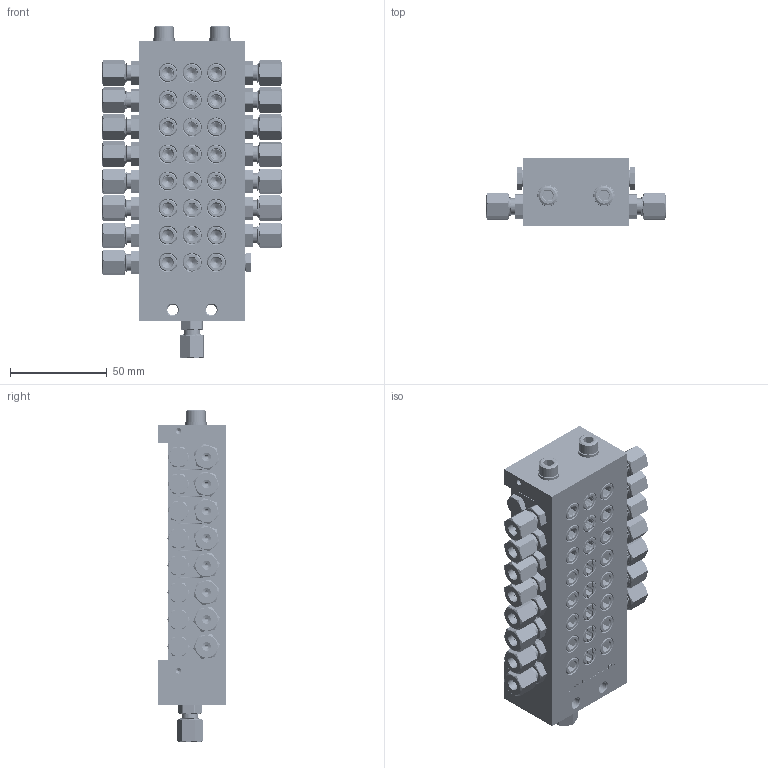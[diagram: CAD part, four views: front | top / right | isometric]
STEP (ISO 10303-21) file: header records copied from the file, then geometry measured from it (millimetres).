
FILE_DESCRIPTION (( 'STEP AP214' ), '1' );
FILE_NAME ('STW_XV_0143_15_050_15_Auslässe.STEP', '2026-01-28T15:46:19', ( '' ), ( '' ), 'SwSTEP 2.0', 'SolidWorks 2022', '' );
FILE_SCHEMA (( 'AUTOMOTIVE_DESIGN' ));
Length unit declared in the file: millimetre
Products named in the file (15): 991214010601_Schneidring; 991214010601_Mutter; STW_XV_Verbindungsstopen; 991214010601; STW_XV_ENGANG; STW_XV_END; Verschlussstopfen_1_8; STW_XV_Kolbenanschlag; U_Scheibe_6; XV_Mittelelement; Verschlussstopfen_1_8_2; STW_XV_MITTEL_1; 991214010601_Koerper; STW_XV_0143_15_050_15_Auslässe; M6X65_DIN_912
Assembly tree (55 placements, depth 3):
  STW_XV_0143_15_050_15_Auslässe
    STW_XV_ENGANG
    STW_XV_MITTEL_1  x3
    STW_XV_END
    Verschlussstopfen_1_8_2  x6
    STW_XV_Kolbenanschlag  x6
    STW_XV_Verbindungsstopen  x3
    M6X65_DIN_912  x2
    U_Scheibe_6  x2
    991214010601  x16
      991214010601_Koerper
      991214010601_Schneidring
      991214010601_Mutter
    XV_Mittelelement  x5
      STW_XV_MITTEL_1
      STW_XV_Kolbenanschlag
      Verschlussstopfen_1_8_2
      STW_XV_Verbindungsstopen
    Verschlussstopfen_1_8
Bounding box: 92.76 x 35 x 171.68 mm (x, y, z)
Volume: 259017.7 mm3; surface area: 155377.8 mm2
Topology: 103 solids, 103 shells, 3260 faces, 8247 edges, 5292 vertices
Faces by surface type: plane 1466, cylinder 1003, cone 583, bspline 192, torus 16
Full cylindrical faces by diameter (mm): 2 x209, 3 x15, 4.5 x16, 5 x83, 5.5 x2, 5.9 x2, 6 x18, 6.2 x34, 6.4 x2, 6.5 x16, 7 x16, 7.4 x16, 7.67 x16, 8 x32, 8.3 x16, 8.4 x8, 8.6 x40, 9 x33, 9.7 x17, 9.73 x8, 9.8 x112, 10 x18, 11 x2, 15 x1
Entity records: 41498 total; most frequent: CARTESIAN_POINT 20643, ORIENTED_EDGE 2808, DIRECTION 2423, EDGE_CURVE 1404, VERTEX_POINT 997, EDGE_LOOP 925, AXIS2_PLACEMENT_3D 853, FACE_OUTER_BOUND 744
